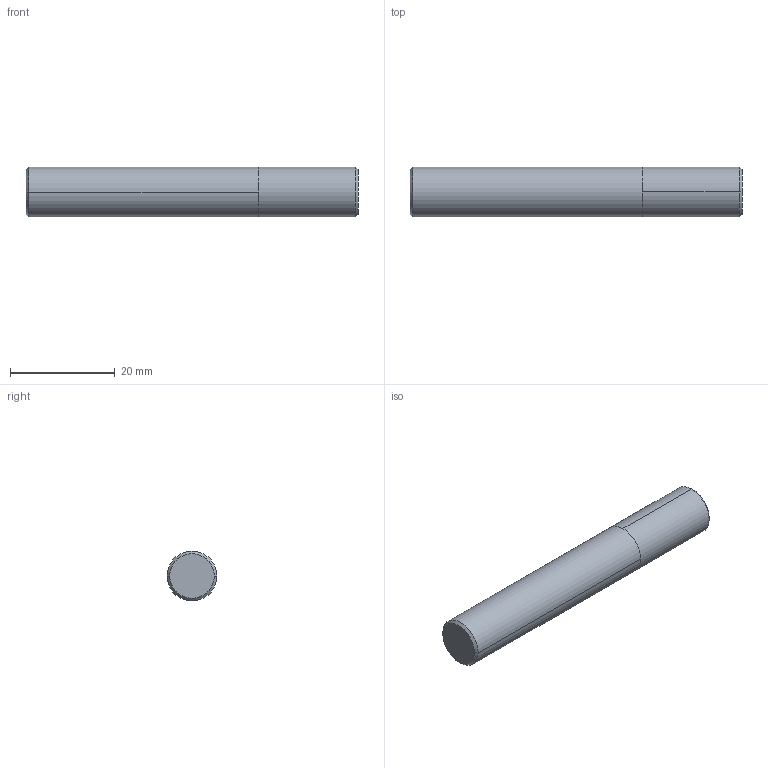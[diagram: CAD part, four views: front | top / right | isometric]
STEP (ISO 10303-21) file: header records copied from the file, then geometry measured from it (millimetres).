
FILE_DESCRIPTION (( 'STEP AP214' ), '1' );
FILE_NAME ('E2170024.STEP', '2018-08-08T06:44:01', ( 'USER' ), ( '' ), 'SwSTEP 2.0', 'SolidWorks 2014', '' );
FILE_SCHEMA (( 'AUTOMOTIVE_DESIGN' ));
Length unit declared in the file: millimetre
Products named in the file (1): E2170024
Bounding box: 63.5 x 9.53 x 9.53 mm (x, y, z)
Volume: 4517.4 mm3; surface area: 2166.8 mm2
Topology: 2 solids, 2 shells, 12 faces, 20 edges, 12 vertices
Faces by surface type: cylinder 4, cone 4, plane 4
Entity records: 393 total; most frequent: DIRECTION 58, CARTESIAN_POINT 45, ORIENTED_EDGE 40, AXIS2_PLACEMENT_3D 25, EDGE_CURVE 20, VERTEX_POINT 12, EDGE_LOOP 12, ADVANCED_FACE 12
